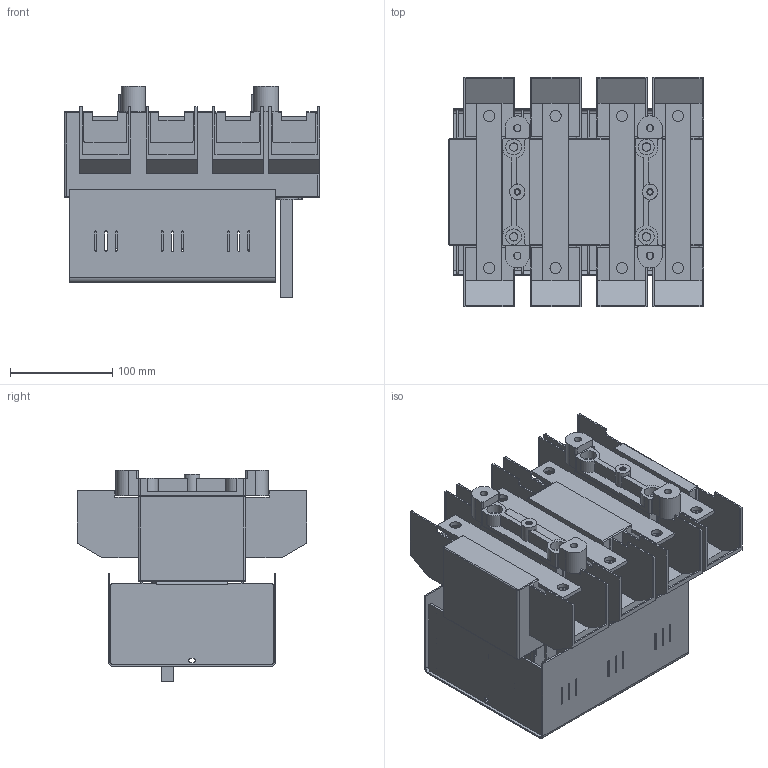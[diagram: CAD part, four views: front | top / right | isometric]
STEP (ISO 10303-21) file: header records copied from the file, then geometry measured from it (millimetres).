
FILE_DESCRIPTION(/* description */ (''),/* implementation_level */ '2;1');
FILE_NAME(/* name */ 'RAB 1 P3 N z oslona zaciskow.stp',/* time_stamp */ '2021-08-19T12:09:19+02:00',/* author */ (''),/* organization */ (''),/* preprocessor_version */ 'ST-DEVELOPER v18.1',/* originating_system */ 'SIEMENS PLM Software NX 1965',/* authorisation */ '');
FILE_SCHEMA (('PROCESS_PLANNING_SCHEMA'));
Length unit declared in the file: millimetre
Products named in the file (1): RAB 1 P3 N z oslona zaciskow_stp
Bounding box: 250 x 225 x 207.3 mm (x, y, z)
Volume: 2591971.2 mm3; surface area: 602617.9 mm2
Topology: 1 solids, 1 shells, 1196 faces, 3342 edges, 2186 vertices
Faces by surface type: plane 838, cylinder 350, torus 5, bspline 3
Full cylindrical faces by diameter (mm): 4.8 x2, 6.2 x2, 7 x4, 8.2 x4, 11 x8, 14 x4, 15 x2, 15.5 x4
Entity records: 38333 total; most frequent: CARTESIAN_POINT 6774, ORIENTED_EDGE 6616, DIRECTION 6416, EDGE_CURVE 3308, LINE 2576, VECTOR 2576, VERTEX_POINT 2182, AXIS2_PLACEMENT_3D 1920
